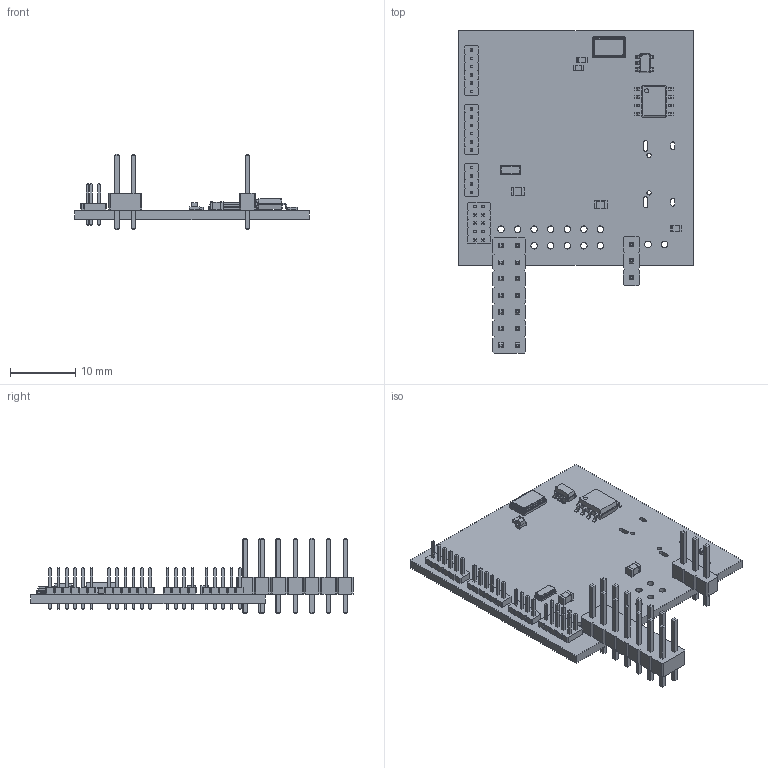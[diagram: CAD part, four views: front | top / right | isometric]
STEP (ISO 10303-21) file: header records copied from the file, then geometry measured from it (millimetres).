
FILE_DESCRIPTION(('KiCad electronic assembly'),'2;1');
FILE_NAME('stm32h743-px4.step','2026-10-22T21:57:04',('Pcbnew'),('Kicad' ),'Open CASCADE STEP processor 7.9','KiCad to STEP converter', 'Unknown');
FILE_SCHEMA(('AUTOMOTIVE_DESIGN { 1 0 10303 214 1 1 1 1 }'));
Length unit declared in the file: millimetre
Products named in the file (26): stm32h743-px4 1; SOT-23-5; LED_0603_1608Metric; SOIC-8_3.9x4.9mm_P1.27mm; PinHeader_2x07_P2.54mm_Vertical; PinHeader_2x07_P254mm_Vertical; PinHeader_2x05_P1.27mm_Vertical; PinHeader_2x05_P127mm_Vertical; R_0603_1608Metric; PinHeader_1x06_P1.27mm_Vertical; PinHeader_1x06_P127mm_Vertical; PinHeader_1x04_P1.27mm_Vertical; PinHeader_1x04_P127mm_Vertical; Crystal_SMD_5032-2Pin_5.0x3.2mm; C_0805_2012Metric; PinHeader_1x03_P2.54mm_Vertical; PinHeader_1x03_P254mm_Vertical; Crystal_SMD_3215-2Pin_3.2x1.5mm; stm32h743-px4_PCB
Assembly tree (28 placements, depth 3):
  stm32h743-px4 1
    SOT-23-5
      SOT-23-5
    LED_0603_1608Metric
      LED_0603_1608Metric
    SOIC-8_3.9x4.9mm_P1.27mm
      SOIC-8_3.9x4.9mm_P1.27mm
    PinHeader_2x07_P2.54mm_Vertical
      PinHeader_2x07_P254mm_Vertical
    PinHeader_2x05_P1.27mm_Vertical
      PinHeader_2x05_P127mm_Vertical
    R_0603_1608Metric  x2
      R_0603_1608Metric
    PinHeader_1x06_P1.27mm_Vertical  x2
      PinHeader_1x06_P127mm_Vertical
    PinHeader_1x04_P1.27mm_Vertical
      PinHeader_1x04_P127mm_Vertical
    Crystal_SMD_5032-2Pin_5.0x3.2mm
      Crystal_SMD_5032-2Pin_5.0x3.2mm
    C_0805_2012Metric  x2
      C_0805_2012Metric
    PinHeader_1x03_P2.54mm_Vertical
      PinHeader_1x03_P254mm_Vertical
    Crystal_SMD_3215-2Pin_3.2x1.5mm
      Crystal_SMD_3215-2Pin_3.2x1.5mm
    stm32h743-px4_PCB
Bounding box: 36 x 49.51 x 11.54 mm (x, y, z)
Volume: 2227 mm3; surface area: 4318.3 mm2
Topology: 16 solids, 16 shells, 1778 faces, 4359 edges, 2704 vertices
Faces by surface type: plane 1401, cylinder 273, torus 72, bspline 32
Full cylindrical faces by diameter (mm): 0.65 x28, 1 x17
Entity records: 58336 total; most frequent: CARTESIAN_POINT 8310, ORIENTED_EDGE 7729, DIRECTION 7535, EDGE_CURVE 3865, LINE 3213, VECTOR 3213, VERTEX_POINT 2392, AXIS2_PLACEMENT_3D 2161
